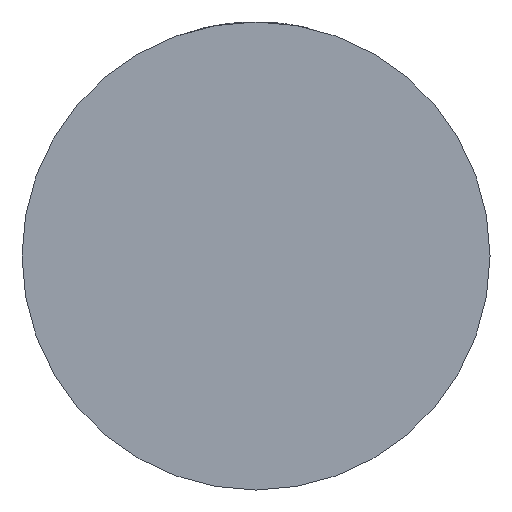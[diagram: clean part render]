
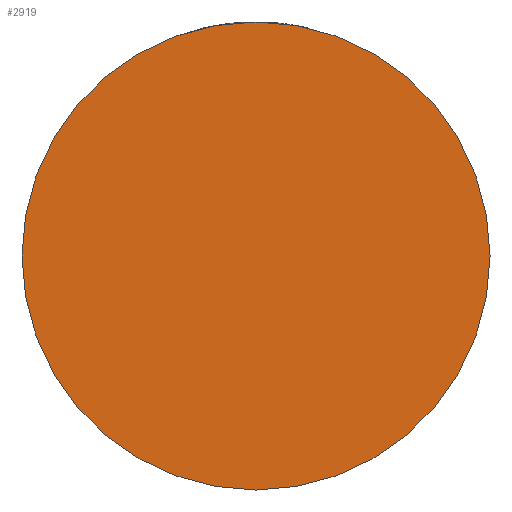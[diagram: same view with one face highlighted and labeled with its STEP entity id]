
A CAD part, front view. The second image highlights one B-rep face of the part: STEP entity #2919.
In plain terms, the highlighted planar face has unit normal (0, -1, 0).
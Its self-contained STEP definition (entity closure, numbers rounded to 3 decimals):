
#291 = DIRECTION ( 'NONE',  ( 0., -1., 0. ) ) ;
#440 = DIRECTION ( 'NONE',  ( 0., -1., 0. ) ) ;
#740 = PLANE ( 'NONE',  #3528 ) ;
#852 = ORIENTED_EDGE ( 'NONE', *, *, #3495, .T. ) ;
#876 = ORIENTED_EDGE ( 'NONE', *, *, #1954, .T. ) ;
#958 = VERTEX_POINT ( 'NONE', #2426 ) ;
#1750 = DIRECTION ( 'NONE',  ( 1., 0., 0. ) ) ;
#1807 = VERTEX_POINT ( 'NONE', #2710 ) ;
#1954 = EDGE_CURVE ( 'NONE', #1807, #958, #2034, .T. ) ;
#2034 = CIRCLE ( 'NONE', #2244, 40. ) ;
#2244 = AXIS2_PLACEMENT_3D ( 'NONE', #3829, #3498, #1750 ) ;
#2286 = DIRECTION ( 'NONE',  ( 1., 0., 0. ) ) ;
#2346 = EDGE_LOOP ( 'NONE', ( #852, #876 ) ) ;
#2426 = CARTESIAN_POINT ( 'NONE',  ( -40., -28., 0. ) ) ;
#2710 = CARTESIAN_POINT ( 'NONE',  ( 40., -28., 0. ) ) ;
#2749 = AXIS2_PLACEMENT_3D ( 'NONE', #4339, #291, #2286 ) ;
#2919 = ADVANCED_FACE ( 'NONE', ( #4137 ), #740, .T. ) ;
#3134 = CARTESIAN_POINT ( 'NONE',  ( 0., -28., 0. ) ) ;
#3495 = EDGE_CURVE ( 'NONE', #958, #1807, #4315, .T. ) ;
#3498 = DIRECTION ( 'NONE',  ( 0., -1., 0. ) ) ;
#3528 = AXIS2_PLACEMENT_3D ( 'NONE', #3134, #440, #4179 ) ;
#3829 = CARTESIAN_POINT ( 'NONE',  ( 0., -28., 0. ) ) ;
#4137 = FACE_OUTER_BOUND ( 'NONE', #2346, .T. ) ;
#4179 = DIRECTION ( 'NONE',  ( 1., 0., 0. ) ) ;
#4315 = CIRCLE ( 'NONE', #2749, 40. ) ;
#4339 = CARTESIAN_POINT ( 'NONE',  ( 0., -28., 0. ) ) ;
